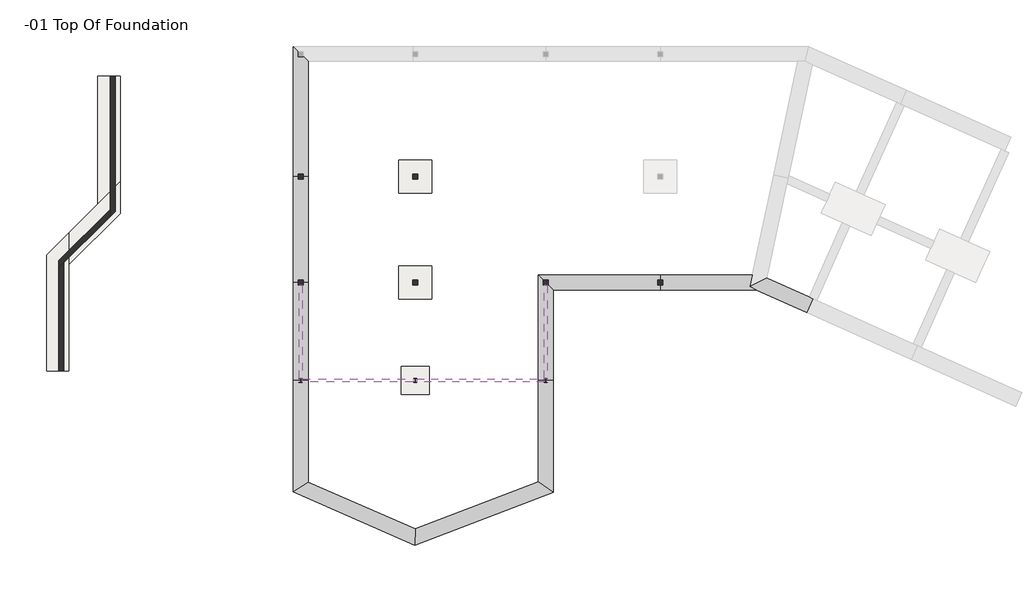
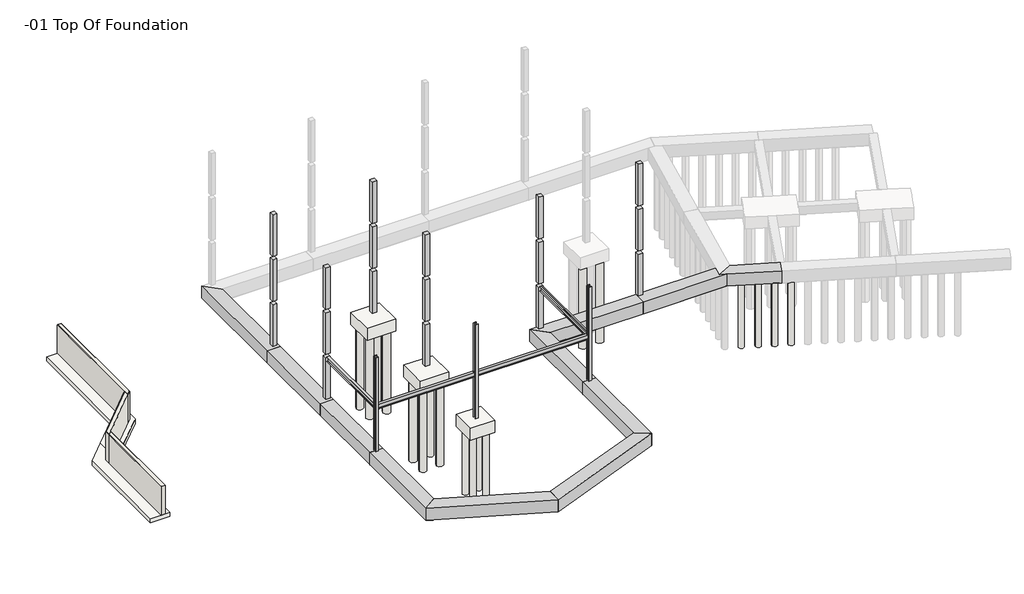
# One storey, part 1 of 6: 21 slabs, 15 beams, 9 columns, 3 footings, 3 walls.
"""IFC4 building model written with IfcOpenShell, lengths in millimetres."""

from ifc_helpers import new_model, si_unit, point, frame, frame_2d, origin, origin_with_axes, place, context, project, spatial, polyline, circle_curve, trimmed, segment, composite_curve, outline, extrude, faceted_brep, transform, mapped, element, save
from ifc_brep_helpers import plane_surface, revolved_surface, advanced_brep
from components import w_shapes_w14x30_ae17c4a2, w_shapes_w14x30_3d09f0be, w_shapes_w14x30_640f1b9c, w_shapes_w14x30_d98494cf, w_shapes_column_w10x33_27927fa3

model = new_model("IFC4")

# Units and contexts
model_context = context("Model", 3, world=origin())
ifc_project = project(units=[si_unit("LENGTHUNIT", "METRE", prefix="MILLI")], contexts=[model_context])

# Site, building, storey
site = spatial("IfcSite", under=ifc_project)
building = spatial("IfcBuilding", under=site)
storey = spatial("IfcBuildingStorey", under=building, Name="-01 Top Of Foundation", Elevation=-304.8)

# Beams
placement = place(None, origin())
element("IfcBeam", 1, ObjectType="Ring Beam : 16 x 32", at=placement, inside=storey, context=model_context, shape_type="AdvancedBrep", body=[
    advanced_brep(
    [(28526.2478532, -13729.7933987, -304.8), (31118.4126766, -14894.1882927, -304.8), (31350.1102376, -14998.2663415, -304.8), (31350.1102376, -14998.2663415, -1193.8), (28526.2478532, -13729.7933987, -1193.8), (27477.2581969, -14261.0066013, -304.8), (27903.7815965, -14452.6, -304.8), (30975.429262, -15832.377561, -304.8), (31339.7024327, -15021.4360976, -1219.2), (28497.1092516, -13744.549321, -1219.2), (30985.8370668, -15809.2078049, -1219.2), (27909.2244536, -14427.2, -1219.2), (27506.3967985, -14246.250679, -1219.2), (27822.9184202, -14085.9626691, -1219.2), (28185.4716207, -13902.3640554, -1219.2), (28732.559032, -14413.6326829, -1219.2), (29138.959032, -14413.6326829, -1219.2), (29663.4968045, -14831.8653659, -1219.2), (30069.8968045, -14831.8653659, -1219.2), (30594.4345769, -15250.0980488, -1219.2), (31000.8345769, -15250.0980488, -1219.2), (30975.429262, -15832.377561, -1193.8), (27903.7815965, -14452.6, -1193.8), (27477.2581969, -14261.0066013, -1193.8), (29138.959032, -14413.6326829, -1066.8), (28732.559032, -14413.6326829, -1066.8), (30069.8968045, -14831.8653659, -1066.8), (29663.4968045, -14831.8653659, -1066.8), (31000.8345769, -15250.0980488, -1066.8), (30594.4345769, -15250.0980488, -1066.8)],
    [
        (0, 1),
        (1, 2),
        (2, 3),
        (3, 4),
        (4, 0),
        (0, 5),
        (5, 6),
        (6, 7),
        (7, 2),
        (3, 8),
        (8, 9),
        (9, 4),
        (8, 10),
        (10, 11),
        (11, 12),
        (12, 13),
        (13, 14),
        (14, 9),
        (15, 16, circle_curve(frame((28935.759032, -14413.6326829, -1219.2), z_axis=(0.0, 0.0, 1.0), x_axis=(1.0, 0.0, 0.0)), 203.2)),
        (16, 15, circle_curve(frame((28935.759032, -14413.6326829, -1219.2), z_axis=(0.0, 0.0, 1.0), x_axis=(1.0, 0.0, 0.0)), 203.2)),
        (17, 18, circle_curve(frame((29866.6968045, -14831.8653659, -1219.2), z_axis=(0.0, 0.0, 1.0), x_axis=(1.0, 0.0, 0.0)), 203.2)),
        (18, 17, circle_curve(frame((29866.6968045, -14831.8653659, -1219.2), z_axis=(0.0, 0.0, 1.0), x_axis=(1.0, 0.0, 0.0)), 203.2)),
        (19, 20, circle_curve(frame((30797.6345769, -15250.0980488, -1219.2), z_axis=(0.0, 0.0, 1.0), x_axis=(1.0, 0.0, 0.0)), 203.2)),
        (20, 19, circle_curve(frame((30797.6345769, -15250.0980488, -1219.2), z_axis=(0.0, 0.0, 1.0), x_axis=(1.0, 0.0, 0.0)), 203.2)),
        (10, 21),
        (21, 22),
        (22, 23),
        (23, 12),
        (5, 23),
        (21, 7),
        (24, 25, circle_curve(frame((28935.759032, -14413.6326829, -1066.8), z_axis=(0.0, 0.0, -1.0), x_axis=(1.0, 0.0, 0.0)), 203.2)),
        (25, 24, circle_curve(frame((28935.759032, -14413.6326829, -1066.8), z_axis=(0.0, 0.0, -1.0), x_axis=(1.0, 0.0, 0.0)), 203.2)),
        (24, 16),
        (15, 25),
        (26, 27, circle_curve(frame((29866.6968045, -14831.8653659, -1066.8), z_axis=(0.0, 0.0, -1.0), x_axis=(1.0, 0.0, 0.0)), 203.2)),
        (27, 26, circle_curve(frame((29866.6968045, -14831.8653659, -1066.8), z_axis=(0.0, 0.0, -1.0), x_axis=(1.0, 0.0, 0.0)), 203.2)),
        (26, 18),
        (17, 27),
        (28, 29, circle_curve(frame((30797.6345769, -15250.0980488, -1066.8), z_axis=(0.0, 0.0, -1.0), x_axis=(1.0, 0.0, 0.0)), 203.2)),
        (29, 28, circle_curve(frame((30797.6345769, -15250.0980488, -1066.8), z_axis=(0.0, 0.0, -1.0), x_axis=(1.0, 0.0, 0.0)), 203.2)),
        (28, 20),
        (19, 29),
    ],
    [
        plane_surface(frame((28608.4763729, -13766.7302739, -304.8), z_axis=(0.40975609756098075, 0.9121951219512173, 0.0), x_axis=(0.9121951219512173, -0.40975609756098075, 0.0))),
        plane_surface(frame((28233.7953973, -14600.8414934, -304.8), z_axis=(0.0, 0.0, 1.0000000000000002), x_axis=(0.9121951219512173, -0.40975609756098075, 0.0))),
        plane_surface(frame((28608.4763729, -13766.7302739, -1193.8), z_axis=(0.28974131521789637, 0.645019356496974, -0.7071067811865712), x_axis=(0.9121951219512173, -0.40975609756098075, 0.0))),
        plane_surface(frame((28598.068568, -13789.90003, -1219.2), z_axis=(0.0, 0.0, -1.0000000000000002), x_axis=(0.9121951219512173, -0.40975609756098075, 0.0))),
        plane_surface(frame((28244.2032022, -14577.6717373, -1219.2), z_axis=(-0.2897413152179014, -0.6450193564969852, -0.7071067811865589), x_axis=(0.9121951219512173, -0.40975609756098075, 0.0))),
        plane_surface(frame((28233.7953973, -14600.8414934, -1193.8), z_axis=(-0.40975609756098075, -0.9121951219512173, 0.0), x_axis=(0.9121951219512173, -0.40975609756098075, 0.0))),
        plane_surface(frame((31162.7697498, -15415.3219512, -304.8), z_axis=(0.9121951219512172, -0.4097560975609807, 0.0), x_axis=(0.4097560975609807, 0.9121951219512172, 0.0))),
        plane_surface(frame((28526.2478532, -13729.7933987, -304.8), z_axis=(-0.451778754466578, 0.8921300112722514, 0.0), x_axis=(0.8921300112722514, 0.451778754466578, 0.0))),
        plane_surface(frame((29138.959032, -14413.6326829, -1066.8), z_axis=(0.0, 0.0, -1.0), x_axis=(0.0, 1.0, 0.0))),
        revolved_surface(polyline([(29138.959032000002, -14413.6326829, -1066.8000000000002), (29138.959032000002, -14413.6326829, -1219.1999999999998)]), (28935.759032, -14413.6326829, -6096.0), (0.0, 0.0, 1.0)),
        plane_surface(frame((30069.8968045, -14831.8653659, -1066.8), z_axis=(0.0, 0.0, -1.0), x_axis=(0.0, 1.0, 0.0))),
        revolved_surface(polyline([(30069.8968045, -14831.8653659, -1066.8000000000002), (30069.8968045, -14831.8653659, -1219.1999999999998)]), (29866.6968045, -14831.8653659, -6096.0), (0.0, 0.0, 1.0)),
        plane_surface(frame((31000.8345769, -15250.0980488, -1066.8), z_axis=(0.0, 0.0, -1.0), x_axis=(0.0, 1.0, 0.0))),
        revolved_surface(polyline([(31000.8345769, -15250.0980488, -1066.8000000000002), (31000.8345769, -15250.0980488, -1219.1999999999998)]), (30797.6345769, -15250.0980488, -6096.0), (0.0, 0.0, 1.0)),
    ],
    [
        (0, [[1, 2, 3, 4, 5]]),
        (1, [[-2, -1, 6, 7, 8, 9]]),
        (2, [[-4, 10, 11, 12]]),
        (3, [[-11, 13, 14, 15, 16, 17, 18], [19, 20], [21, 22], [23, 24]]),
        (4, [[-15, -14, 25, 26, 27, 28]]),
        (5, [[-8, -7, 29, -27, -26, 30]]),
        (6, [[-30, -25, -13, -10, -3, -9]]),
        (7, [[-6, -5, -12, -18, -17, -16, -28, -29]]),
        (8, [[31, 32]]),
        (9, [[-31, 33, -19, 34]]),
        (9, [[-32, -34, -20, -33]]),
        (10, [[35, 36]]),
        (11, [[-35, 37, -21, 38]]),
        (11, [[-36, -38, -22, -37]]),
        (12, [[39, 40]]),
        (13, [[-39, 41, -23, 42]]),
        (13, [[-40, -42, -24, -41]]),
    ],
),
])
element("IfcBeam", 2, ObjectType="Ring Beam : 16 x 32", at=placement, inside=storey, context=model_context, shape_type="Brep", body=[
    faceted_brep([(27632.1453257, -13538.2, -304.8), (27632.1453257, -13538.2, -1193.8), (22009.1, -13538.2, -1193.8), (22009.1, -13538.2, -304.8), (27477.2581969, -14261.0066013, -304.8), (27477.2581969, -14261.0066013, -1193.8), (22009.1, -14452.6, -304.8), (27903.7815965, -14452.6, -304.8), (27652.6790868, -13563.6, -1219.2), (22009.1, -13563.6, -1219.2), (27506.3967985, -14246.250679, -1219.2), (27909.2244536, -14427.2, -1219.2), (22009.1, -14427.2, -1219.2), (22009.1, -14452.6, -1193.8), (27903.7815965, -14452.6, -1193.8)], [[[0, 1, 2, 3]], [[1, 0, 4, 5]], [[4, 0, 3, 6, 7]], [[1, 8, 9, 2]], [[8, 10, 11, 12, 9]], [[13, 12, 11, 14]], [[6, 13, 14, 7]], [[8, 1, 5, 10]], [[5, 14, 11, 10]], [[14, 5, 4, 7]], [[6, 3, 2, 9, 12, 13]]]),
])
element("IfcBeam", 3, ObjectType="Ring Beam : 16 x 32", at=placement, inside=storey, context=model_context, shape_type="Brep", body=[
    faceted_brep([(14541.5, -20002.5, -304.8), (15455.9, -20002.5, -304.8), (15455.9, -14452.6, -304.8), (14541.5, -13538.2, -304.8), (14541.5, -20002.5, -1193.8), (14541.5, -13538.2, -1193.8), (14566.9, -20002.5, -1219.2), (14566.9, -13563.6, -1219.2), (15430.5, -20002.5, -1219.2), (15430.5, -14427.2, -1219.2), (15455.9, -20002.5, -1193.8), (15455.9, -14452.6, -1193.8)], [[[0, 1, 2, 3]], [[4, 0, 3, 5]], [[6, 4, 5, 7]], [[8, 6, 7, 9]], [[10, 8, 9, 11]], [[1, 10, 11, 2]], [[1, 0, 4, 6, 8, 10]], [[2, 11, 9, 7, 5, 3]]]),
])
element("IfcBeam", 4, ObjectType="Ring Beam : 16 x 32", at=placement, inside=storey, context=model_context, shape_type="Brep", body=[
    faceted_brep([(6999.0797986, -30090.7939803, -304.8), (15455.9, -26844.5248543, -304.8), (14541.5, -26216.0751457, -304.8), (7021.7202014, -29102.6481618, -304.8), (14541.5, -26216.0751457, -1193.8), (7021.7202014, -29102.6481618, -1193.8), (14566.9, -26233.5320821, -1219.2), (7021.0913013, -29130.0966568, -1219.2), (15430.5, -26827.0679179, -1219.2), (6999.7086987, -30063.3454854, -1219.2), (15455.9, -26844.5248543, -1193.8), (6999.0797986, -30090.7939803, -1193.8)], [[[0, 1, 2, 3]], [[3, 2, 4, 5]], [[5, 4, 6, 7]], [[7, 6, 8, 9]], [[9, 8, 10, 11]], [[1, 0, 11, 10]], [[1, 10, 8, 6, 4, 2]], [[0, 3, 5, 7, 9, 11]]]),
])
element("IfcBeam", 5, ObjectType="Ring Beam : 16 x 32", at=placement, inside=storey, context=model_context, shape_type="Brep", body=[
    faceted_brep([(-457.2, -26829.3404989, -304.8), (6999.0797986, -30090.7939803, -304.8), (7021.7202014, -29102.6481618, -304.8), (457.2, -26231.2595011, -304.8), (7021.7202014, -29102.6481618, -1193.8), (457.2, -26231.2595011, -1193.8), (7021.0913013, -29130.0966568, -1219.2), (431.8, -26247.8728622, -1219.2), (6999.7086987, -30063.3454854, -1219.2), (-431.8, -26812.7271378, -1219.2), (6999.0797986, -30090.7939803, -1193.8), (-457.2, -26829.3404989, -1193.8)], [[[0, 1, 2, 3]], [[3, 2, 4, 5]], [[5, 4, 6, 7]], [[7, 6, 8, 9]], [[9, 8, 10, 11]], [[1, 0, 11, 10]], [[1, 10, 8, 6, 4, 2]], [[0, 3, 5, 7, 9, 11]]]),
])
element("IfcBeam", 6, ObjectType="Ring Beam : 16 x 32", at=placement, inside=storey, context=model_context, shape_type="Brep", body=[
    faceted_brep([(-457.2, -20002.5, -304.8), (-457.2, -26723.3402351, -304.8), (-457.2, -26829.3404989, -304.8), (457.2, -26231.2595011, -304.8), (457.2, -20002.5, -304.8), (457.2, -26231.2595011, -1193.8), (457.2, -20002.5, -1193.8), (431.8, -26247.8728622, -1219.2), (431.8, -20002.5, -1219.2), (-431.8, -26812.7271378, -1219.2), (-431.8, -20002.5, -1219.2), (-457.2, -26829.3404989, -1193.8), (-457.2, -20002.5, -1193.8)], [[[0, 1, 2, 3, 4]], [[4, 3, 5, 6]], [[6, 5, 7, 8]], [[8, 7, 9, 10]], [[10, 9, 11, 12]], [[2, 1, 0, 12, 11]], [[2, 11, 9, 7, 5, 3]], [[0, 4, 6, 8, 10, 12]]]),
])
element("IfcBeam", 7, ObjectType="Ring Beam : 16 x 32", at=placement, inside=storey, context=model_context, shape_type="Brep", body=[
    faceted_brep([(457.2, -457.2, -304.8), (-457.2, 457.2, -304.8), (-457.2, -7505.7, -304.8), (457.2, -7505.7, -304.8), (457.2, -457.2, -1193.8), (457.2, -7505.7, -1193.8), (431.8, -431.8, -1219.2), (431.8, -7505.7, -1219.2), (-431.8, 431.8, -1219.2), (-431.8, -7505.7, -1219.2), (-457.2, 457.2, -1193.8), (-457.2, -7505.7, -1193.8)], [[[0, 1, 2, 3]], [[4, 0, 3, 5]], [[6, 4, 5, 7]], [[8, 6, 7, 9]], [[10, 8, 9, 11]], [[1, 10, 11, 2]], [[1, 0, 4, 6, 8, 10]], [[2, 11, 9, 7, 5, 3]]]),
])
element("IfcBeam", 8, ObjectType="Ring Beam : 16 x 32", at=placement, inside=storey, context=model_context, shape_type="SweptSolid", body=[
    extrude(outline(polyline([(-304.8, -457.2), (-1193.8, -457.2), (-1219.2, -431.8), (-1219.2, 431.8), (-1193.8, 457.2), (-304.8, 457.2), (-304.8, -457.2)])), frame((0.0, -13995.4, 0.0), z_axis=(0.0, 1.0, 0.0), x_axis=(0.0, 0.0, 1.0)), (0.0, 0.0, 1.0), 6489.7),
])
element("IfcBeam", 9, ObjectType="Ring Beam : 16 x 32", at=placement, inside=storey, context=model_context, shape_type="SweptSolid", body=[
    extrude(outline(polyline([(-304.8, -457.2), (-1193.8, -457.2), (-1219.2, -431.8), (-1219.2, 431.8), (-1193.8, 457.2), (-304.8, 457.2), (-304.8, -457.2)])), frame((0.0, -20002.5, 0.0), z_axis=(0.0, 1.0, 0.0), x_axis=(0.0, 0.0, 1.0)), (0.0, 0.0, 1.0), 6007.1),
])
element("IfcBeam", 10, ObjectType="Ring Beam : 16 x 32", at=placement, inside=storey, context=model_context, shape_type="Brep", body=[
    faceted_brep([(14541.5, -26216.0751457, -304.8), (15455.9, -26844.5248543, -304.8), (15455.9, -26723.3402351, -304.8), (15455.9, -20002.5, -304.8), (14541.5, -20002.5, -304.8), (14541.5, -26216.0751457, -1193.8), (14541.5, -20002.5, -1193.8), (14566.9, -26233.5320821, -1219.2), (14566.9, -20002.5, -1219.2), (15430.5, -26827.0679179, -1219.2), (15430.5, -20002.5, -1219.2), (15455.9, -26844.5248543, -1193.8), (15455.9, -20002.5, -1193.8)], [[[0, 1, 2, 3, 4]], [[5, 0, 4, 6]], [[7, 5, 6, 8]], [[9, 7, 8, 10]], [[11, 9, 10, 12]], [[1, 11, 12, 3, 2]], [[1, 0, 5, 7, 9, 11]], [[3, 12, 10, 8, 6, 4]]]),
])
element("IfcBeam", 11, ObjectType="Ring Beam : 16 x 32", at=placement, inside=storey, context=model_context, shape_type="Brep", body=[
    faceted_brep([(22009.1, -13538.2, -304.8), (14541.5, -13538.2, -304.8), (15455.9, -14452.6, -304.8), (22009.1, -14452.6, -304.8), (15455.9, -14452.6, -1193.8), (22009.1, -14452.6, -1193.8), (15430.5, -14427.2, -1219.2), (22009.1, -14427.2, -1219.2), (14566.9, -13563.6, -1219.2), (22009.1, -13563.6, -1219.2), (14541.5, -13538.2, -1193.8), (22009.1, -13538.2, -1193.8)], [[[0, 1, 2, 3]], [[3, 2, 4, 5]], [[5, 4, 6, 7]], [[7, 6, 8, 9]], [[9, 8, 10, 11]], [[1, 0, 11, 10]], [[1, 10, 8, 6, 4, 2]], [[0, 3, 5, 7, 9, 11]]]),
])
w_shapes_w14x30_shape = w_shapes_w14x30_ae17c4a2(model_context)
element("IfcBeam", 12, ObjectType="W Shapes : W14X30", at=placement, inside=storey, context=model_context, shape_type="MappedRepresentation", body=[
    mapped(w_shapes_w14x30_shape, transform((3505.2, -20002.5, 2974.34), x_axis=(1.0, 0.0, 0.0), y_axis=(0.0, 1.0, 0.0), z_axis=(0.0, 0.0, 1.0))),
])
w_shapes_w14x30_2_shape = w_shapes_w14x30_3d09f0be(model_context)
element("IfcBeam", 13, ObjectType="W Shapes : W14X30", at=placement, inside=storey, context=model_context, shape_type="MappedRepresentation", body=[
    mapped(w_shapes_w14x30_2_shape, transform((11004.55, -20002.5, 2974.34), x_axis=(1.0, 0.0, 0.0), y_axis=(0.0, 1.0, 0.0), z_axis=(0.0, 0.0, 1.0))),
])
w_shapes_w14x30_3_shape = w_shapes_w14x30_640f1b9c(model_context)
element("IfcBeam", 14, ObjectType="W Shapes : W14X30", at=placement, inside=storey, context=model_context, shape_type="MappedRepresentation", body=[
    mapped(w_shapes_w14x30_3_shape, transform((0.0, -16998.95, 2974.34), x_axis=(0.0, 1.0, 0.0), y_axis=(-1.0, 0.0, 0.0), z_axis=(0.0, 0.0, 1.0))),
])
w_shapes_w14x30_4_shape = w_shapes_w14x30_d98494cf(model_context)
element("IfcBeam", 15, ObjectType="W Shapes : W14X30", at=placement, inside=storey, context=model_context, shape_type="MappedRepresentation", body=[
    mapped(w_shapes_w14x30_4_shape, transform((14998.7, -16998.95, 2974.34), x_axis=(0.0, -1.0, 0.0), y_axis=(1.0, 0.0, 0.0), z_axis=(0.0, 0.0, 1.0))),
])

# Columns
element("IfcColumn", 16, ObjectType="Concrete-Rectangular-Column : 12 x 12", at=placement, inside=storey, context=model_context, shape_type="SweptSolid", body=[
    extrude(outline(polyline([(7162.8, -7353.3), (7162.8, -7658.1), (6858.0, -7658.1), (6858.0, -7353.3), (7162.8, -7353.3)])), frame((0.0, 0.0, 6705.6), z_axis=(0.0, 0.0, 1.0), x_axis=(1.0, 0.0, 0.0)), (0.0, 0.0, 1.0), 3098.8),
    extrude(outline(polyline([(7162.8, -7353.3), (7162.8, -7658.1), (6858.0, -7658.1), (6858.0, -7353.3), (7162.8, -7353.3)])), origin_with_axes(), (0.0, 0.0, 1.0), 3098.8),
    extrude(outline(polyline([(7162.8, -7353.3), (7162.8, -7658.1), (6858.0, -7658.1), (6858.0, -7353.3), (7162.8, -7353.3)])), frame((0.0, 0.0, 3352.8), z_axis=(0.0, 0.0, 1.0), x_axis=(1.0, 0.0, 0.0)), (0.0, 0.0, 1.0), 3098.8),
])
element("IfcColumn", 17, ObjectType="Concrete-Rectangular-Column : 12 x 12", at=placement, inside=storey, context=model_context, shape_type="SweptSolid", body=[
    extrude(outline(polyline([(152.4, -7353.3), (152.4, -7658.1), (-152.4, -7658.1), (-152.4, -7353.3), (152.4, -7353.3)])), frame((0.0, 0.0, 6705.6), z_axis=(0.0, 0.0, 1.0), x_axis=(1.0, 0.0, 0.0)), (0.0, 0.0, 1.0), 3098.8),
    extrude(outline(polyline([(152.4, -7353.3), (152.4, -7658.1), (-152.4, -7658.1), (-152.4, -7353.3), (152.4, -7353.3)])), origin_with_axes(), (0.0, 0.0, 1.0), 3098.8),
    extrude(outline(polyline([(152.4, -7353.3), (152.4, -7658.1), (-152.4, -7658.1), (-152.4, -7353.3), (152.4, -7353.3)])), frame((0.0, 0.0, 3352.8), z_axis=(0.0, 0.0, 1.0), x_axis=(1.0, 0.0, 0.0)), (0.0, 0.0, 1.0), 3098.8),
])
element("IfcColumn", 18, ObjectType="Concrete-Rectangular-Column : 12 x 12", at=placement, inside=storey, context=model_context, shape_type="Brep", body=[
    faceted_brep([(152.4, -14147.8, 6705.6), (152.4, -13843.0, 6705.6), (152.4, -13843.0, 9804.4), (152.4, -14147.8, 9804.4), (-152.4, -14147.8, 6705.6), (-152.4, -14147.8, 9804.4), (-152.4, -13843.0, 6705.6), (-152.4, -13843.0, 9804.4)], [[[0, 1, 2, 3]], [[4, 0, 3, 5]], [[6, 4, 5, 7]], [[1, 6, 7, 2]], [[1, 0, 4, 6]], [[3, 2, 7, 5]]]),
    faceted_brep([(152.4, -13843.0, 0.0), (152.4, -14147.8, 0.0), (-152.4, -14147.8, 0.0), (-152.4, -13843.0, 0.0), (152.4, -14147.8, 3098.8), (-152.4, -14147.8, 3098.8), (152.4, -13843.0, 3098.8), (-152.4, -13843.0, 3098.8)], [[[0, 1, 2, 3]], [[2, 1, 4, 5]], [[4, 6, 7, 5]], [[1, 0, 6, 4]], [[3, 2, 5, 7]], [[0, 3, 7, 6]]]),
    faceted_brep([(152.4, -14147.8, 3352.8), (-152.4, -14147.8, 3352.8), (-152.4, -13855.7, 3352.8), (-152.4, -13843.0, 3352.8), (152.4, -13843.0, 3352.8), (152.4, -14147.8, 6451.6), (152.4, -13843.0, 6451.6), (-152.4, -13843.0, 6451.6), (-152.4, -14147.8, 6451.6)], [[[0, 1, 2, 3, 4]], [[5, 6, 7, 8]], [[0, 4, 6, 5]], [[1, 0, 5, 8]], [[3, 2, 1, 8, 7]], [[4, 3, 7, 6]]]),
])
element("IfcColumn", 19, ObjectType="Concrete-Rectangular-Column : 12 x 12", at=placement, inside=storey, context=model_context, shape_type="SweptSolid", body=[
    extrude(outline(polyline([(15151.1, -13843.0), (15151.1, -14147.8), (14846.3, -14147.8), (14846.3, -13843.0), (15151.1, -13843.0)])), frame((0.0, 0.0, 6705.6), z_axis=(0.0, 0.0, 1.0), x_axis=(1.0, 0.0, 0.0)), (0.0, 0.0, 1.0), 3098.8),
    extrude(outline(polyline([(15151.1, -13843.0), (15151.1, -14147.8), (14846.3, -14147.8), (14846.3, -13843.0), (15151.1, -13843.0)])), origin_with_axes(), (0.0, 0.0, 1.0), 3098.8),
    extrude(outline(polyline([(15151.1, -13843.0), (15151.1, -14147.8), (14846.3, -14147.8), (14846.3, -13843.0), (15151.1, -13843.0)])), frame((0.0, 0.0, 3352.8), z_axis=(0.0, 0.0, 1.0), x_axis=(1.0, 0.0, 0.0)), (0.0, 0.0, 1.0), 3098.8),
])
element("IfcColumn", 20, ObjectType="Concrete-Rectangular-Column : 12 x 12", at=placement, inside=storey, context=model_context, shape_type="SweptSolid", body=[
    extrude(outline(polyline([(22161.5, -13843.0), (22161.5, -14147.8), (21856.7, -14147.8), (21856.7, -13843.0), (22161.5, -13843.0)])), frame((0.0, 0.0, 6705.6), z_axis=(0.0, 0.0, 1.0), x_axis=(1.0, 0.0, 0.0)), (0.0, 0.0, 1.0), 3098.8),
    extrude(outline(polyline([(22161.5, -13843.0), (22161.5, -14147.8), (21856.7, -14147.8), (21856.7, -13843.0), (22161.5, -13843.0)])), origin_with_axes(), (0.0, 0.0, 1.0), 3098.8),
    extrude(outline(polyline([(22161.5, -13843.0), (22161.5, -14147.8), (21856.7, -14147.8), (21856.7, -13843.0), (22161.5, -13843.0)])), frame((0.0, 0.0, 3352.8), z_axis=(0.0, 0.0, 1.0), x_axis=(1.0, 0.0, 0.0)), (0.0, 0.0, 1.0), 3098.8),
])
element("IfcColumn", 21, ObjectType="Concrete-Rectangular-Column : 12 x 12", at=placement, inside=storey, context=model_context, shape_type="SweptSolid", body=[
    extrude(outline(polyline([(7162.8, -13843.0), (7162.8, -14147.8), (6858.0, -14147.8), (6858.0, -13843.0), (7162.8, -13843.0)])), frame((0.0, 0.0, 6705.6), z_axis=(0.0, 0.0, 1.0), x_axis=(1.0, 0.0, 0.0)), (0.0, 0.0, 1.0), 3098.8),
    extrude(outline(polyline([(7162.8, -13843.0), (7162.8, -14147.8), (6858.0, -14147.8), (6858.0, -13843.0), (7162.8, -13843.0)])), origin_with_axes(), (0.0, 0.0, 1.0), 3098.8),
    extrude(outline(polyline([(7162.8, -14147.8), (6858.0, -14147.8), (6858.0, -13843.0), (7162.8, -13843.0), (7162.8, -14147.8)])), frame((0.0, 0.0, 3352.8), z_axis=(0.0, 0.0, 1.0), x_axis=(1.0, 0.0, 0.0)), (0.0, 0.0, 1.0), 3098.8),
])
w_shapes_column_w10x33_shape = w_shapes_column_w10x33_27927fa3(model_context)
element("IfcColumn", 22, ObjectType="W Shapes-Column : W10X33", at=placement, inside=storey, context=model_context, shape_type="MappedRepresentation", body=[
    mapped(w_shapes_column_w10x33_shape, transform((0.0, -20002.5, 0.0), x_axis=(1.0, 0.0, 0.0), y_axis=(0.0, 1.0, 0.0), z_axis=(0.0, 0.0, 1.0))),
])
element("IfcColumn", 23, ObjectType="W Shapes-Column : W10X33", at=placement, inside=storey, context=model_context, shape_type="MappedRepresentation", body=[
    mapped(w_shapes_column_w10x33_shape, transform((7010.4, -20002.5, 0.0), x_axis=(1.0, 0.0, 0.0), y_axis=(0.0, 1.0, 0.0), z_axis=(0.0, 0.0, 1.0))),
])
element("IfcColumn", 24, ObjectType="W Shapes-Column : W10X33", at=placement, inside=storey, context=model_context, shape_type="MappedRepresentation", body=[
    mapped(w_shapes_column_w10x33_shape, transform((14998.7, -20002.5, 0.0), x_axis=(1.0, 0.0, 0.0), y_axis=(0.0, 1.0, 0.0), z_axis=(0.0, 0.0, 1.0))),
])

# Footings
element("IfcFooting", 25, ObjectType="Bearing Footing - 36\" x 12\"", at=placement, inside=storey, context=model_context, shape_type="Brep", body=[
    faceted_brep([(-14181.4784596, -19412.7293915, -304.8), (-15553.0784596, -19412.7293915, -304.8), (-15553.0784596, -19412.7293915, -609.6), (-14181.4784596, -19412.7293915, -609.6), (-15553.0784596, -12328.3725101, -304.8), (-14181.4784596, -12896.5078323, -304.8), (-14181.4784596, -10956.7725101, -304.8), (-14181.4784596, -10956.7725101, -609.6), (-14181.4784596, -12896.5078323, -609.6), (-15553.0784596, -12328.3725101, -609.6)], [[[0, 1, 2, 3]], [[4, 1, 0, 5, 6]], [[7, 6, 5, 0, 3, 8]], [[9, 7, 8, 3, 2]], [[4, 9, 2, 1]], [[4, 6, 7, 9]]]),
])
element("IfcFooting", 26, ObjectType="Bearing Footing - 36\" x 12\"", at=placement, inside=storey, context=model_context, shape_type="Brep", body=[
    faceted_brep([(-11056.3493295, -9771.3787021, -304.8), (-11056.3493295, -7831.64338, -304.8), (-12427.9493295, -9203.24338, -304.8), (-14181.4784596, -10956.7725101, -304.8), (-14181.4784596, -12896.5078323, -304.8), (-11056.3493295, -9771.3787021, -609.6), (-14181.4784596, -12896.5078323, -609.6), (-11056.3493295, -7831.64338, -609.6), (-14181.4784596, -10956.7725101, -609.6), (-12427.9493295, -9203.24338, -609.6)], [[[0, 1, 2, 3, 4]], [[5, 0, 4, 6]], [[7, 5, 6, 8, 9]], [[1, 7, 9, 8, 3, 2]], [[4, 3, 8, 6]], [[1, 0, 5, 7]]]),
])
element("IfcFooting", 27, ObjectType="Bearing Footing - 36\" x 12\"", at=placement, inside=storey, context=model_context, shape_type="SweptSolid", body=[
    extrude(outline(polyline([(-12427.9493295, -1352.4002614), (-11056.3493295, -1352.4002614), (-11056.3493295, -7831.64338), (-12427.9493295, -9203.24338), (-12427.9493295, -1352.4002614)])), frame((0.0, 0.0, -609.6), z_axis=(0.0, 0.0, 1.0), x_axis=(1.0, 0.0, 0.0)), (0.0, 0.0, 1.0), 304.8),
])

# Slabs
element("IfcSlab", 28, ObjectType="Pile Cap-4 Pile : 68\"x68\"x35\"", at=placement, inside=storey, context=model_context, shape_type="SweptSolid", body=[
    extrude(outline(polyline([(7874.0, -19138.9), (7874.0, -20866.1), (6146.8, -20866.1), (6146.8, -19138.9), (7874.0, -19138.9)])), frame((0.0, 0.0, -1193.8), z_axis=(0.0, 0.0, 1.0), x_axis=(1.0, 0.0, 0.0)), (0.0, 0.0, 1.0), 889.0),
])
element("IfcSlab", 29, ObjectType="Pile Cap-4 Pile : 79\"x79\"x35\"", at=placement, inside=storey, context=model_context, shape_type="SweptSolid", body=[
    extrude(outline(polyline([(8013.7, -6502.4), (8013.7, -8509.0), (6007.1, -8509.0), (6007.1, -6502.4), (8013.7, -6502.4)])), frame((0.0, 0.0, -1193.8), z_axis=(0.0, 0.0, 1.0), x_axis=(1.0, 0.0, 0.0)), (0.0, 0.0, 1.0), 889.0),
])
element("IfcSlab", 30, ObjectType="Pile Cap-4 Pile : 79\"x79\"x35\"", at=placement, inside=storey, context=model_context, shape_type="SweptSolid", body=[
    extrude(outline(polyline([(8013.7, -12992.1), (8013.7, -14998.7), (6007.1, -14998.7), (6007.1, -12992.1), (8013.7, -12992.1)])), frame((0.0, 0.0, -1193.8), z_axis=(0.0, 0.0, 1.0), x_axis=(1.0, 0.0, 0.0)), (0.0, 0.0, 1.0), 889.0),
])
element("IfcSlab", 31, ObjectType="Pile-Steel Pipe : 20\" Diameter", at=placement, inside=storey, context=model_context, shape_type="SweptSolid", body=[
    extrude(outline(composite_curve([segment(trimmed(circle_curve(frame_2d((21412.2, -8102.6)), 254.0), [point((21158.2, -8102.6))], [point((21666.2, -8102.6))], False, "CARTESIAN"), True, "CONTINUOUS"), segment(trimmed(circle_curve(frame_2d((21412.2, -8102.6)), 254.0), [point((21666.2, -8102.6))], [point((21158.2, -8102.6))], False, "CARTESIAN"), True, "CONTINUOUS")], self_intersect=False)), frame((0.0, 0.0, -7289.8), z_axis=(0.0, 0.0, 1.0), x_axis=(1.0, 0.0, 0.0)), (0.0, 0.0, 1.0), 6096.0),
])
element("IfcSlab", 32, ObjectType="Pile-Steel Pipe : 20\" Diameter", at=placement, inside=storey, context=model_context, shape_type="SweptSolid", body=[
    extrude(outline(composite_curve([segment(trimmed(circle_curve(frame_2d((22606.0, -8102.6)), 254.0), [point((22352.0, -8102.6))], [point((22860.0, -8102.6))], False, "CARTESIAN"), True, "CONTINUOUS"), segment(trimmed(circle_curve(frame_2d((22606.0, -8102.6)), 254.0), [point((22860.0, -8102.6))], [point((22352.0, -8102.6))], False, "CARTESIAN"), True, "CONTINUOUS")], self_intersect=False)), frame((0.0, 0.0, -7289.8), z_axis=(0.0, 0.0, 1.0), x_axis=(1.0, 0.0, 0.0)), (0.0, 0.0, 1.0), 6096.0),
])
element("IfcSlab", 33, ObjectType="Pile-Steel Pipe : 20\" Diameter", at=placement, inside=storey, context=model_context, shape_type="SweptSolid", body=[
    extrude(outline(composite_curve([segment(trimmed(circle_curve(frame_2d((6413.5, -6908.8)), 254.0), [point((6159.5, -6908.8))], [point((6667.5, -6908.8))], False, "CARTESIAN"), True, "CONTINUOUS"), segment(trimmed(circle_curve(frame_2d((6413.5, -6908.8)), 254.0), [point((6667.5, -6908.8))], [point((6159.5, -6908.8))], False, "CARTESIAN"), True, "CONTINUOUS")], self_intersect=False)), frame((0.0, 0.0, -7289.8), z_axis=(0.0, 0.0, 1.0), x_axis=(1.0, 0.0, 0.0)), (0.0, 0.0, 1.0), 6096.0),
])
element("IfcSlab", 34, ObjectType="Pile-Steel Pipe : 20\" Diameter", at=placement, inside=storey, context=model_context, shape_type="SweptSolid", body=[
    extrude(outline(composite_curve([segment(trimmed(circle_curve(frame_2d((6413.5, -8102.6)), 254.0), [point((6159.5, -8102.6))], [point((6667.5, -8102.6))], False, "CARTESIAN"), True, "CONTINUOUS"), segment(trimmed(circle_curve(frame_2d((6413.5, -8102.6)), 254.0), [point((6667.5, -8102.6))], [point((6159.5, -8102.6))], False, "CARTESIAN"), True, "CONTINUOUS")], self_intersect=False)), frame((0.0, 0.0, -7289.8), z_axis=(0.0, 0.0, 1.0), x_axis=(1.0, 0.0, 0.0)), (0.0, 0.0, 1.0), 6096.0),
])
element("IfcSlab", 35, ObjectType="Pile-Steel Pipe : 20\" Diameter", at=placement, inside=storey, context=model_context, shape_type="SweptSolid", body=[
    extrude(outline(composite_curve([segment(trimmed(circle_curve(frame_2d((7607.3, -8102.6)), 254.0), [point((7353.3, -8102.6))], [point((7861.3, -8102.6))], False, "CARTESIAN"), True, "CONTINUOUS"), segment(trimmed(circle_curve(frame_2d((7607.3, -8102.6)), 254.0), [point((7861.3, -8102.6))], [point((7353.3, -8102.6))], False, "CARTESIAN"), True, "CONTINUOUS")], self_intersect=False)), frame((0.0, 0.0, -7289.8), z_axis=(0.0, 0.0, 1.0), x_axis=(1.0, 0.0, 0.0)), (0.0, 0.0, 1.0), 6096.0),
])
element("IfcSlab", 36, ObjectType="Pile-Steel Pipe : 20\" Diameter", at=placement, inside=storey, context=model_context, shape_type="SweptSolid", body=[
    extrude(outline(composite_curve([segment(trimmed(circle_curve(frame_2d((7607.3, -6908.8)), 254.0), [point((7353.3, -6908.8))], [point((7861.3, -6908.8))], False, "CARTESIAN"), True, "CONTINUOUS"), segment(trimmed(circle_curve(frame_2d((7607.3, -6908.8)), 254.0), [point((7861.3, -6908.8))], [point((7353.3, -6908.8))], False, "CARTESIAN"), True, "CONTINUOUS")], self_intersect=False)), frame((0.0, 0.0, -7289.8), z_axis=(0.0, 0.0, 1.0), x_axis=(1.0, 0.0, 0.0)), (0.0, 0.0, 1.0), 6096.0),
])
element("IfcSlab", 37, ObjectType="Pile-Steel Pipe : 20\" Diameter", at=placement, inside=storey, context=model_context, shape_type="SweptSolid", body=[
    extrude(outline(composite_curve([segment(trimmed(circle_curve(frame_2d((6413.5, -13398.5)), 254.0), [point((6159.5, -13398.5))], [point((6667.5, -13398.5))], False, "CARTESIAN"), True, "CONTINUOUS"), segment(trimmed(circle_curve(frame_2d((6413.5, -13398.5)), 254.0), [point((6667.5, -13398.5))], [point((6159.5, -13398.5))], False, "CARTESIAN"), True, "CONTINUOUS")], self_intersect=False)), frame((0.0, 0.0, -7289.8), z_axis=(0.0, 0.0, 1.0), x_axis=(1.0, 0.0, 0.0)), (0.0, 0.0, 1.0), 6096.0),
])
element("IfcSlab", 38, ObjectType="Pile-Steel Pipe : 20\" Diameter", at=placement, inside=storey, context=model_context, shape_type="SweptSolid", body=[
    extrude(outline(composite_curve([segment(trimmed(circle_curve(frame_2d((6413.5, -14592.3)), 254.0), [point((6159.5, -14592.3))], [point((6667.5, -14592.3))], False, "CARTESIAN"), True, "CONTINUOUS"), segment(trimmed(circle_curve(frame_2d((6413.5, -14592.3)), 254.0), [point((6667.5, -14592.3))], [point((6159.5, -14592.3))], False, "CARTESIAN"), True, "CONTINUOUS")], self_intersect=False)), frame((0.0, 0.0, -7289.8), z_axis=(0.0, 0.0, 1.0), x_axis=(1.0, 0.0, 0.0)), (0.0, 0.0, 1.0), 6096.0),
])
element("IfcSlab", 39, ObjectType="Pile-Steel Pipe : 20\" Diameter", at=placement, inside=storey, context=model_context, shape_type="SweptSolid", body=[
    extrude(outline(composite_curve([segment(trimmed(circle_curve(frame_2d((7607.3, -14592.3)), 254.0), [point((7353.3, -14592.3))], [point((7861.3, -14592.3))], False, "CARTESIAN"), True, "CONTINUOUS"), segment(trimmed(circle_curve(frame_2d((7607.3, -14592.3)), 254.0), [point((7861.3, -14592.3))], [point((7353.3, -14592.3))], False, "CARTESIAN"), True, "CONTINUOUS")], self_intersect=False)), frame((0.0, 0.0, -7289.8), z_axis=(0.0, 0.0, 1.0), x_axis=(1.0, 0.0, 0.0)), (0.0, 0.0, 1.0), 6096.0),
])
element("IfcSlab", 40, ObjectType="Pile-Steel Pipe : 20\" Diameter", at=placement, inside=storey, context=model_context, shape_type="SweptSolid", body=[
    extrude(outline(composite_curve([segment(trimmed(circle_curve(frame_2d((7607.3, -13398.5)), 254.0), [point((7353.3, -13398.5))], [point((7861.3, -13398.5))], False, "CARTESIAN"), True, "CONTINUOUS"), segment(trimmed(circle_curve(frame_2d((7607.3, -13398.5)), 254.0), [point((7861.3, -13398.5))], [point((7353.3, -13398.5))], False, "CARTESIAN"), True, "CONTINUOUS")], self_intersect=False)), frame((0.0, 0.0, -7289.8), z_axis=(0.0, 0.0, 1.0), x_axis=(1.0, 0.0, 0.0)), (0.0, 0.0, 1.0), 6096.0),
])
element("IfcSlab", 41, ObjectType="Round In Situ Concrete Pile : 16\" Diameter", at=placement, inside=storey, context=model_context, shape_type="SweptSolid", body=[
    extrude(outline(composite_curve([segment(trimmed(circle_curve(frame_2d((28935.759032, -14413.6326829)), 203.2), [point((28732.559032, -14413.6326829))], [point((29138.959032, -14413.6326829))], False, "CARTESIAN"), True, "CONTINUOUS"), segment(trimmed(circle_curve(frame_2d((28935.759032, -14413.6326829)), 203.2), [point((29138.959032, -14413.6326829))], [point((28732.559032, -14413.6326829))], False, "CARTESIAN"), True, "CONTINUOUS")], self_intersect=False)), frame((0.0, 0.0, -6096.0), z_axis=(0.0, 0.0, 1.0), x_axis=(1.0, 0.0, 0.0)), (0.0, 0.0, 1.0), 5029.2),
])
element("IfcSlab", 42, ObjectType="Round In Situ Concrete Pile : 16\" Diameter", at=placement, inside=storey, context=model_context, shape_type="SweptSolid", body=[
    extrude(outline(composite_curve([segment(trimmed(circle_curve(frame_2d((29866.6968045, -14831.8653659)), 203.2), [point((29663.4968045, -14831.8653659))], [point((30069.8968045, -14831.8653659))], False, "CARTESIAN"), True, "CONTINUOUS"), segment(trimmed(circle_curve(frame_2d((29866.6968045, -14831.8653659)), 203.2), [point((30069.8968045, -14831.8653659))], [point((29663.4968045, -14831.8653659))], False, "CARTESIAN"), True, "CONTINUOUS")], self_intersect=False)), frame((0.0, 0.0, -6096.0), z_axis=(0.0, 0.0, 1.0), x_axis=(1.0, 0.0, 0.0)), (0.0, 0.0, 1.0), 5029.2),
])
element("IfcSlab", 43, ObjectType="Round In Situ Concrete Pile : 16\" Diameter", at=placement, inside=storey, context=model_context, shape_type="SweptSolid", body=[
    extrude(outline(composite_curve([segment(trimmed(circle_curve(frame_2d((30797.6345769, -15250.0980488)), 203.2), [point((30594.4345769, -15250.0980488))], [point((31000.8345769, -15250.0980488))], False, "CARTESIAN"), True, "CONTINUOUS"), segment(trimmed(circle_curve(frame_2d((30797.6345769, -15250.0980488)), 203.2), [point((31000.8345769, -15250.0980488))], [point((30594.4345769, -15250.0980488))], False, "CARTESIAN"), True, "CONTINUOUS")], self_intersect=False)), frame((0.0, 0.0, -6096.0), z_axis=(0.0, 0.0, 1.0), x_axis=(1.0, 0.0, 0.0)), (0.0, 0.0, 1.0), 5029.2),
])
element("IfcSlab", 44, ObjectType="Round In Situ Concrete Pile : 16\" Diameter", at=placement, inside=storey, context=model_context, shape_type="SweptSolid", body=[
    extrude(outline(composite_curve([segment(trimmed(circle_curve(frame_2d((31728.5723494, -15668.3307317)), 203.2), [point((31525.3723494, -15668.3307317))], [point((31931.7723494, -15668.3307317))], False, "CARTESIAN"), True, "CONTINUOUS"), segment(trimmed(circle_curve(frame_2d((31728.5723494, -15668.3307317)), 203.2), [point((31931.7723494, -15668.3307317))], [point((31525.3723494, -15668.3307317))], False, "CARTESIAN"), True, "CONTINUOUS")], self_intersect=False)), frame((0.0, 0.0, -6096.0), z_axis=(0.0, 0.0, 1.0), x_axis=(1.0, 0.0, 0.0)), (0.0, 0.0, 1.0), 5029.2),
])
element("IfcSlab", 45, ObjectType="Round In Situ Concrete Pile : 16\" Diameter", at=placement, inside=storey, context=model_context, shape_type="SweptSolid", body=[
    extrude(outline(composite_curve([segment(trimmed(circle_curve(frame_2d((6553.2, -19545.3)), 203.2), [point((6350.0, -19545.3))], [point((6756.4, -19545.3))], False, "CARTESIAN"), True, "CONTINUOUS"), segment(trimmed(circle_curve(frame_2d((6553.2, -19545.3)), 203.2), [point((6756.4, -19545.3))], [point((6350.0, -19545.3))], False, "CARTESIAN"), True, "CONTINUOUS")], self_intersect=False)), frame((0.0, 0.0, -6070.6), z_axis=(0.0, 0.0, 1.0), x_axis=(1.0, 0.0, 0.0)), (0.0, 0.0, 1.0), 4876.8),
])
element("IfcSlab", 46, ObjectType="Round In Situ Concrete Pile : 16\" Diameter", at=placement, inside=storey, context=model_context, shape_type="SweptSolid", body=[
    extrude(outline(composite_curve([segment(trimmed(circle_curve(frame_2d((6553.2, -20459.7)), 203.2), [point((6350.0, -20459.7))], [point((6756.4, -20459.7))], False, "CARTESIAN"), True, "CONTINUOUS"), segment(trimmed(circle_curve(frame_2d((6553.2, -20459.7)), 203.2), [point((6756.4, -20459.7))], [point((6350.0, -20459.7))], False, "CARTESIAN"), True, "CONTINUOUS")], self_intersect=False)), frame((0.0, 0.0, -6070.6), z_axis=(0.0, 0.0, 1.0), x_axis=(1.0, 0.0, 0.0)), (0.0, 0.0, 1.0), 4876.8),
])
element("IfcSlab", 47, ObjectType="Round In Situ Concrete Pile : 16\" Diameter", at=placement, inside=storey, context=model_context, shape_type="SweptSolid", body=[
    extrude(outline(composite_curve([segment(trimmed(circle_curve(frame_2d((7467.6, -20459.7)), 203.2), [point((7264.4, -20459.7))], [point((7670.8, -20459.7))], False, "CARTESIAN"), True, "CONTINUOUS"), segment(trimmed(circle_curve(frame_2d((7467.6, -20459.7)), 203.2), [point((7670.8, -20459.7))], [point((7264.4, -20459.7))], False, "CARTESIAN"), True, "CONTINUOUS")], self_intersect=False)), frame((0.0, 0.0, -6070.6), z_axis=(0.0, 0.0, 1.0), x_axis=(1.0, 0.0, 0.0)), (0.0, 0.0, 1.0), 4876.8),
])
element("IfcSlab", 48, ObjectType="Round In Situ Concrete Pile : 16\" Diameter", at=placement, inside=storey, context=model_context, shape_type="SweptSolid", body=[
    extrude(outline(composite_curve([segment(trimmed(circle_curve(frame_2d((7467.6, -19545.3)), 203.2), [point((7264.4, -19545.3))], [point((7670.8, -19545.3))], False, "CARTESIAN"), True, "CONTINUOUS"), segment(trimmed(circle_curve(frame_2d((7467.6, -19545.3)), 203.2), [point((7670.8, -19545.3))], [point((7264.4, -19545.3))], False, "CARTESIAN"), True, "CONTINUOUS")], self_intersect=False)), frame((0.0, 0.0, -6070.6), z_axis=(0.0, 0.0, 1.0), x_axis=(1.0, 0.0, 0.0)), (0.0, 0.0, 1.0), 4876.8),
])

# Walls
element("IfcWall", 49, ObjectType="RC Wall 12\" Chamfer", at=placement, inside=storey, context=model_context, shape_type="Brep", body=[
    faceted_brep([(-11665.9493295, -1352.4002614, -304.8), (-11665.9493295, -9518.8741145, -304.8), (-11665.9493295, -9949.9264083, -304.8), (-11665.9493295, -9949.9264083, 1803.4), (-11665.9493295, -9914.0053838, 1828.8), (-11665.9493295, -9554.795139, 1828.8), (-11665.9493295, -9518.8741145, 1803.4), (-11665.9493295, -1352.4002614, 1803.4), (-11361.1493295, -9645.1264083, -304.8), (-11361.1493295, -1352.4002614, -304.8), (-11361.1493295, -1352.4002614, 1803.4), (-11361.1493295, -9645.1264083, 1803.4), (-11386.5493295, -9634.6053838, 1828.8), (-11386.5493295, -1352.4002614, 1828.8), (-11640.5493295, -9529.395139, 1828.8), (-11640.5493295, -1352.4002614, 1828.8)], [[[0, 1, 2, 3, 4, 5, 6, 7]], [[8, 9, 10, 11]], [[3, 2, 8, 11]], [[12, 11, 10, 13]], [[11, 12, 4, 3]], [[6, 14, 15, 7]], [[14, 6, 5]], [[2, 1, 0, 9, 8]], [[12, 13, 15, 14, 5, 4]], [[10, 9, 0, 7, 15, 13]]]),
])
element("IfcWall", 50, ObjectType="RC Wall 12\" Chamfer", at=placement, inside=storey, context=model_context, shape_type="Brep", body=[
    faceted_brep([(-11665.9493295, -9518.8741145, -304.8), (-14791.0784596, -12644.0032446, -304.8), (-14791.0784596, -12644.0032446, 1803.4), (-11665.9493295, -9518.8741145, 1803.4), (-14791.0784596, -13075.0555384, -304.8), (-14486.2784596, -12770.2555384, -304.8), (-11665.9493295, -9949.9264083, -304.8), (-11665.9493295, -9949.9264083, 1803.4), (-14486.2784596, -12770.2555384, 1803.4), (-14511.6784596, -12795.6555384, 1828.8), (-14765.6784596, -13049.6555384, 1828.8), (-14791.0784596, -13075.0555384, 1803.4), (-14511.6784596, -12759.734514, 1828.8), (-11665.9493295, -9914.0053838, 1828.8), (-11665.9493295, -9554.795139, 1828.8), (-14765.6784596, -12654.5242691, 1828.8)], [[[0, 1, 2, 3]], [[4, 5, 6, 7, 8, 9, 10, 11]], [[1, 0, 6, 5, 4]], [[12, 13, 14, 15, 10, 9]], [[6, 0, 3, 14, 13, 7]], [[1, 4, 11, 2]], [[12, 8, 7, 13]], [[8, 12, 9]], [[2, 15, 14, 3]], [[15, 2, 11, 10]]]),
])
element("IfcWall", 51, ObjectType="RC Wall 12\" Chamfer", at=placement, inside=storey, context=model_context, shape_type="Brep", body=[
    faceted_brep([(-14791.0784596, -13075.0555384, -304.8), (-14791.0784596, -19412.7293915, -304.8), (-14791.0784596, -19412.7293915, 1803.4), (-14791.0784596, -13075.0555384, 1803.4), (-14486.2784596, -19412.7293915, -304.8), (-14486.2784596, -12770.2555384, -304.8), (-14486.2784596, -12770.2555384, 1803.4), (-14486.2784596, -19412.7293915, 1803.4), (-14511.6784596, -19412.7293915, 1828.8), (-14765.6784596, -19412.7293915, 1828.8), (-14511.6784596, -12795.6555384, 1828.8), (-14765.6784596, -13049.6555384, 1828.8)], [[[0, 1, 2, 3]], [[4, 5, 6, 7]], [[1, 0, 5, 4]], [[1, 4, 7, 8, 9, 2]], [[8, 10, 11, 9]], [[5, 0, 3, 11, 10, 6]], [[7, 6, 10, 8]], [[3, 2, 9, 11]]]),
])

save(model, "model.ifc")
